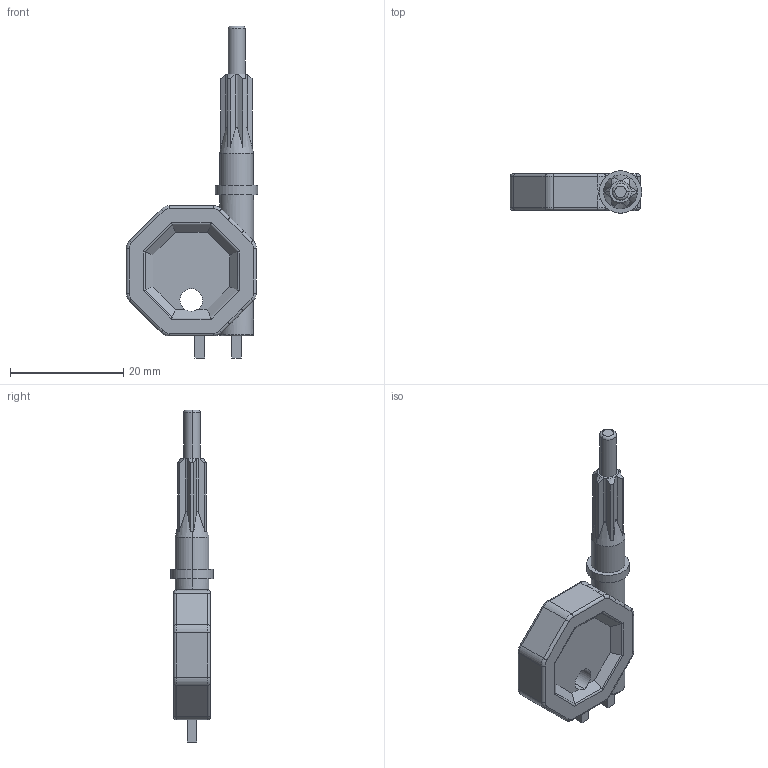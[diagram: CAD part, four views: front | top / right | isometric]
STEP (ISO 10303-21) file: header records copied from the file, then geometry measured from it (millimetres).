
FILE_DESCRIPTION (( 'STEP AP214' ), '1' );
FILE_NAME ('Êëþ÷_eng.STEP', '2026-09-11T11:36:30', ( '' ), ( '' ), 'SwSTEP 2.0', 'SolidWorks 2022', '' );
FILE_SCHEMA (( 'AUTOMOTIVE_DESIGN' ));
Length unit declared in the file: millimetre
Products named in the file (1): Ключ_eng
Bounding box: 23.25 x 7.5 x 58.7 mm (x, y, z)
Volume: 3035.3 mm3; surface area: 2098.3 mm2
Topology: 1 solids, 1 shells, 167 faces, 408 edges, 248 vertices
Faces by surface type: cylinder 74, plane 61, torus 19, bspline 9, cone 4
Entity records: 5274 total; most frequent: CARTESIAN_POINT 1484, ORIENTED_EDGE 816, DIRECTION 761, EDGE_CURVE 408, AXIS2_PLACEMENT_3D 283, VERTEX_POINT 248, LINE 195, VECTOR 195
